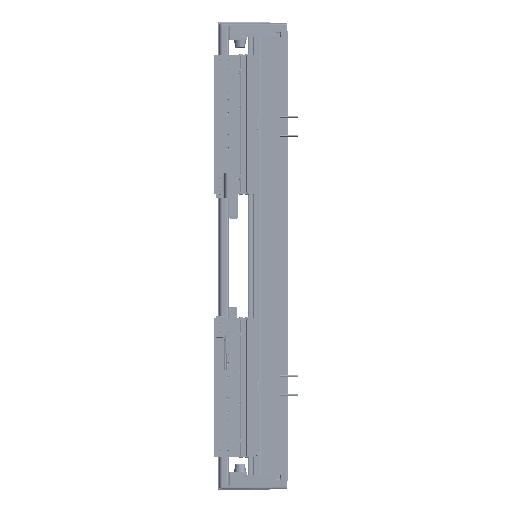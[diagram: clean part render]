
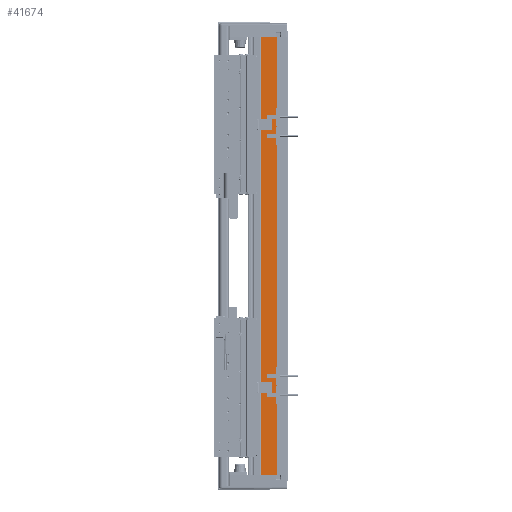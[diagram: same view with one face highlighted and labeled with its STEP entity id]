
A CAD part, left-side view. The second image highlights one B-rep face of the part: STEP entity #41674.
In plain terms, the highlighted planar face has unit normal (-1, 0, 0).
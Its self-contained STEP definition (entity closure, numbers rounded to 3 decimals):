
#1655 = LINE ( 'NONE', #47464, #15993 ) ;
#3281 = AXIS2_PLACEMENT_3D ( 'NONE', #30365, #119028, #19418 ) ;
#3768 = DIRECTION ( 'NONE',  ( 0., -1., 0. ) ) ;
#5301 = CARTESIAN_POINT ( 'NONE',  ( -97.5, 36.95, 300. ) ) ;
#6031 = VERTEX_POINT ( 'NONE', #124314 ) ;
#8306 = DIRECTION ( 'NONE',  ( 0., -1., 0. ) ) ;
#9870 = CARTESIAN_POINT ( 'NONE',  ( -97.5, 14.45, 300. ) ) ;
#13053 = EDGE_CURVE ( 'NONE', #87120, #74662, #86249, .T. ) ;
#15479 = EDGE_LOOP ( 'NONE', ( #95944, #23838, #19014, #78111 ) ) ;
#15993 = VECTOR ( 'NONE', #3768, 1000. ) ;
#19014 = ORIENTED_EDGE ( 'NONE', *, *, #136591, .F. ) ;
#19418 = DIRECTION ( 'NONE',  ( 0., 1., 0. ) ) ;
#23838 = ORIENTED_EDGE ( 'NONE', *, *, #13053, .F. ) ;
#26459 = VECTOR ( 'NONE', #8306, 1000. ) ;
#30365 = CARTESIAN_POINT ( 'NONE',  ( -97.5, 36.95, 300. ) ) ;
#41674 = ADVANCED_FACE ( 'NONE', ( #74719 ), #129987, .F. ) ;
#47464 = CARTESIAN_POINT ( 'NONE',  ( -97.5, 36.95, 300. ) ) ;
#49339 = VERTEX_POINT ( 'NONE', #5301 ) ;
#55483 = VECTOR ( 'NONE', #59792, 1000. ) ;
#59792 = DIRECTION ( 'NONE',  ( 0., 0., -1. ) ) ;
#65874 = DIRECTION ( 'NONE',  ( 0., 0., -1. ) ) ;
#74662 = VERTEX_POINT ( 'NONE', #104756 ) ;
#74719 = FACE_OUTER_BOUND ( 'NONE', #15479, .T. ) ;
#78111 = ORIENTED_EDGE ( 'NONE', *, *, #136743, .T. ) ;
#79338 = CARTESIAN_POINT ( 'NONE',  ( -97.5, 14.45, 300. ) ) ;
#86249 = LINE ( 'NONE', #9870, #127138 ) ;
#87120 = VERTEX_POINT ( 'NONE', #79338 ) ;
#95944 = ORIENTED_EDGE ( 'NONE', *, *, #127137, .T. ) ;
#104756 = CARTESIAN_POINT ( 'NONE',  ( -97.5, 14.45, -300. ) ) ;
#106950 = CARTESIAN_POINT ( 'NONE',  ( -97.5, 36.95, 300. ) ) ;
#107912 = CARTESIAN_POINT ( 'NONE',  ( -97.5, 36.95, -300. ) ) ;
#119028 = DIRECTION ( 'NONE',  ( 1., 0., 0. ) ) ;
#124314 = CARTESIAN_POINT ( 'NONE',  ( -97.5, 36.95, -300. ) ) ;
#127137 = EDGE_CURVE ( 'NONE', #6031, #74662, #129791, .T. ) ;
#127138 = VECTOR ( 'NONE', #65874, 1000. ) ;
#129791 = LINE ( 'NONE', #107912, #26459 ) ;
#129987 = PLANE ( 'NONE',  #3281 ) ;
#136591 = EDGE_CURVE ( 'NONE', #49339, #87120, #1655, .T. ) ;
#136743 = EDGE_CURVE ( 'NONE', #49339, #6031, #137591, .T. ) ;
#137591 = LINE ( 'NONE', #106950, #55483 ) ;
